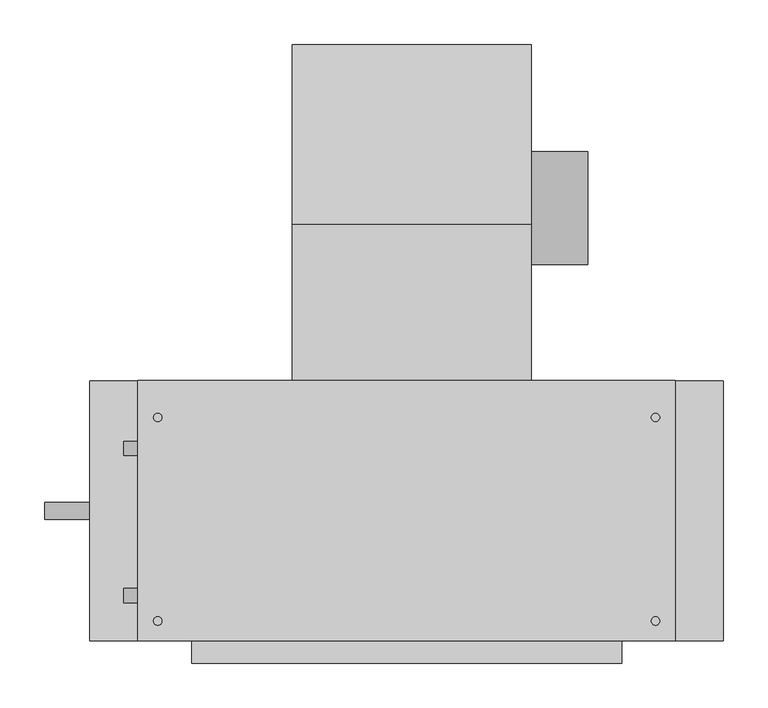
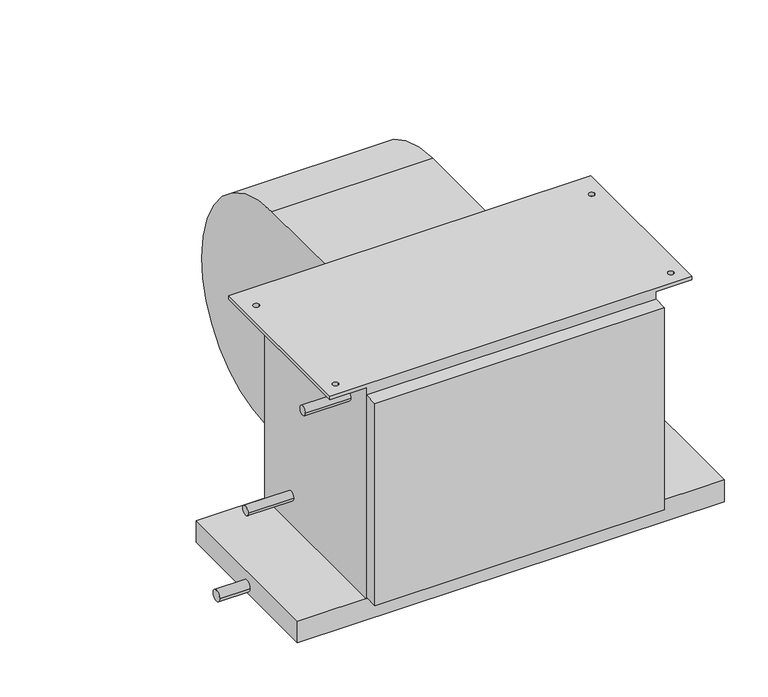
"""IFC4 building model written with IfcOpenShell, lengths in millimetres: proxy geometry, Concealed_High_Capacity_Horizontal_Fan_Coil_Unit_-_42DAA_-_CARRIER_-_2-Pipe_Cool-EHeat_LH_2022 : Size 08 - 277v/60Hz/1Ph - 6 Row 6.0kW."""

from ifc_helpers import new_model, si_unit, point, frame, frame_2d, origin, place, context, project, spatial, polyline, circle_curve, trimmed, segment, composite_curve, outline, extrude, source, transform, mapped, element, save
from ifc_brep_helpers import plane_surface, cylinder_surface, revolved_surface, advanced_brep


def mechanical_equipment_1c2b563a(model_context):
    return source(origin(), model_context, "Body", "SolidModel", [
        extrude(outline(composite_curve([segment(trimmed(circle_curve(frame_2d((102.0007598, -206.8897468)), 63.5), [point((165.5007598, -206.8897468))], [point((38.5007598, -206.8897468))], False, "CARTESIAN"), True, "CONTINUOUS"), segment(trimmed(circle_curve(frame_2d((102.0007598, -206.8897468)), 63.5), [point((38.5007598, -206.8897468))], [point((165.5007598, -206.8897468))], False, "CARTESIAN"), True, "CONTINUOUS")], self_intersect=False)), frame((292.1, 0.0, 0.0), z_axis=(1.0, 0.0, 0.0), x_axis=(0.0, 1.0, 0.0)), (0.0, 0.0, 1.0), 63.5),
        advanced_brep(
        [(23.876, 285.5155957, -222.029602), (23.876, 104.6226, -403.64664), (23.876, -50.9016, -277.10638), (23.876, -92.075, -277.10638), (23.876, -92.075, -19.05), (23.876, 83.0080093, -19.05), (292.1, 285.5155957, -222.029602), (292.1, 83.0080093, -19.05), (292.1, -92.075, -19.05), (292.1, -92.075, -277.10638), (292.1, -50.9016, -277.10638), (292.1, 104.622599, -403.6457839)],
        [
            (0, 1, circle_curve(frame((23.876, 104.44226, -222.57258), z_axis=(-1.0, 0.0, 0.0), x_axis=(0.0, -1.0, 0.0)), 181.0741498)),
            (1, 2, circle_curve(frame((23.876, 104.44226, -245.02364), z_axis=(-1.0, 0.0, 0.0), x_axis=(0.0, -1.0, 0.0)), 158.6222464)),
            (2, 3),
            (3, 4),
            (4, 5),
            (5, 0, circle_curve(frame((23.876, 81.9912, -222.57258), z_axis=(-1.0, 0.0, 0.0), x_axis=(0.0, -1.0, 0.0)), 203.52512)),
            (6, 7, circle_curve(frame((292.1, 81.9912, -222.57258), z_axis=(1.0, 0.0, 0.0), x_axis=(0.0, -1.0, 0.0)), 203.52512)),
            (7, 8),
            (8, 9),
            (9, 10),
            (10, 11, circle_curve(frame((292.1, 104.44226, -245.02364), z_axis=(1.0, 0.0, 0.0), x_axis=(0.0, -1.0, 0.0)), 158.6222464)),
            (11, 6, circle_curve(frame((292.1, 104.44226, -222.57258), z_axis=(1.0, 0.0, 0.0), x_axis=(0.0, -1.0, 0.0)), 181.0741498)),
            (0, 6),
            (11, 1),
            (10, 2),
            (9, 3),
            (8, 4),
            (7, 5),
        ],
        [
            plane_surface(frame((23.876, -76.6318898, -222.57258), z_axis=(-1.0, 0.0, 0.0), x_axis=(0.0, 0.0, 1.0))),
            plane_surface(frame((292.1, -76.6318898, -222.57258), z_axis=(1.0, 0.0, 0.0), x_axis=(0.0, 0.0, -1.0))),
            cylinder_surface(frame((292.1, 104.44226, -222.57258), z_axis=(-1.0, 0.0, 0.0), x_axis=(0.0, -1.0, 0.0)), 181.0741498),
            cylinder_surface(frame((292.1, 104.44226, -245.02364), z_axis=(-1.0, 0.0, 0.0), x_axis=(0.0, -1.0, 0.0)), 158.6222464),
            plane_surface(frame((23.876, -50.9016, -277.10638), z_axis=(0.0, 0.0, -1.0), x_axis=(1.0, 0.0, 0.0))),
            plane_surface(frame((23.876, -92.075, -277.10638), z_axis=(0.0, -1.0, 0.0), x_axis=(1.0, 0.0, 0.0))),
            plane_surface(frame((23.876, -92.075, -19.05), z_axis=(0.0, 0.0, 1.0), x_axis=(1.0, 0.0, 0.0))),
            cylinder_surface(frame((292.1, 81.9912, -222.57258), z_axis=(-1.0, 0.0, 0.0), x_axis=(0.0, -1.0, 0.0)), 203.52512),
        ],
        [
            (0, [[1, 2, 3, 4, 5, 6]]),
            (1, [[7, 8, 9, 10, 11, 12]]),
            (2, [[-1, 13, -12, 14]]),
            (3, [[-2, -14, -11, 15]]),
            (4, [[-3, -15, -10, 16]]),
            (5, [[-4, -16, -9, 17]]),
            (6, [[-5, -17, -8, 18]]),
            (7, [[-6, -18, -7, -13]]),
        ],
    ),
        advanced_brep(
        [(454.025, -92.075, -6.35), (454.025, -384.175, -6.35), (393.7, -384.175, -6.35), (393.7, -92.075, -6.35), (427.0375, -133.35, -6.35), (436.5625, -133.35, -6.35), (427.0375, -361.95, -6.35), (436.5625, -361.95, -6.35), (-149.225, -92.075, -6.35), (-88.9, -92.075, -6.35), (-88.9, -384.175, -6.35), (-149.225, -384.175, -6.35), (-131.7625, -133.35, -6.35), (-122.2375, -133.35, -6.35), (-131.7625, -361.95, -6.35), (-122.2375, -361.95, -6.35), (454.025, -384.175, 0.0), (454.025, -92.075, 0.0), (-149.225, -92.075, 0.0), (-149.225, -384.175, 0.0), (-122.2375, -133.35, 0.0), (-131.7625, -133.35, 0.0), (-122.2375, -361.95, 0.0), (-131.7625, -361.95, 0.0), (436.5625, -133.35, 0.0), (427.0375, -133.35, 0.0), (436.5625, -361.95, 0.0), (427.0375, -361.95, 0.0), (393.7, -92.075, -377.825), (-88.9, -92.075, -377.825), (-88.9, -384.175, -377.825), (393.7, -384.175, -377.825)],
        [
            (0, 1),
            (1, 2),
            (2, 3),
            (3, 0),
            (4, 5, circle_curve(frame((431.8, -133.35, -6.35), z_axis=(0.0, 0.0, 1.0), x_axis=(1.0, 0.0, 0.0)), 4.7625)),
            (5, 4, circle_curve(frame((431.8, -133.35, -6.35), z_axis=(0.0, 0.0, 1.0), x_axis=(1.0, 0.0, 0.0)), 4.7625)),
            (6, 7, circle_curve(frame((431.8, -361.95, -6.35), z_axis=(0.0, 0.0, 1.0), x_axis=(1.0, 0.0, 0.0)), 4.7625)),
            (7, 6, circle_curve(frame((431.8, -361.95, -6.35), z_axis=(0.0, 0.0, 1.0), x_axis=(1.0, 0.0, 0.0)), 4.7625)),
            (8, 9),
            (9, 10),
            (10, 11),
            (11, 8),
            (12, 13, circle_curve(frame((-127.0, -133.35, -6.35), z_axis=(0.0, 0.0, 1.0), x_axis=(1.0, 0.0, 0.0)), 4.7625)),
            (13, 12, circle_curve(frame((-127.0, -133.35, -6.35), z_axis=(0.0, 0.0, 1.0), x_axis=(1.0, 0.0, 0.0)), 4.7625)),
            (14, 15, circle_curve(frame((-127.0, -361.95, -6.35), z_axis=(0.0, 0.0, 1.0), x_axis=(1.0, 0.0, 0.0)), 4.7625)),
            (15, 14, circle_curve(frame((-127.0, -361.95, -6.35), z_axis=(0.0, 0.0, 1.0), x_axis=(1.0, 0.0, 0.0)), 4.7625)),
            (16, 17),
            (17, 18),
            (18, 19),
            (19, 16),
            (20, 21, circle_curve(frame((-127.0, -133.35, 0.0), z_axis=(0.0, 0.0, -1.0), x_axis=(1.0, 0.0, 0.0)), 4.7625)),
            (21, 20, circle_curve(frame((-127.0, -133.35, 0.0), z_axis=(0.0, 0.0, -1.0), x_axis=(1.0, 0.0, 0.0)), 4.7625)),
            (22, 23, circle_curve(frame((-127.0, -361.95, 0.0), z_axis=(0.0, 0.0, -1.0), x_axis=(1.0, 0.0, 0.0)), 4.7625)),
            (23, 22, circle_curve(frame((-127.0, -361.95, 0.0), z_axis=(0.0, 0.0, -1.0), x_axis=(1.0, 0.0, 0.0)), 4.7625)),
            (24, 25, circle_curve(frame((431.8, -133.35, 0.0), z_axis=(0.0, 0.0, -1.0), x_axis=(1.0, 0.0, 0.0)), 4.7625)),
            (25, 24, circle_curve(frame((431.8, -133.35, 0.0), z_axis=(0.0, 0.0, -1.0), x_axis=(1.0, 0.0, 0.0)), 4.7625)),
            (26, 27, circle_curve(frame((431.8, -361.95, 0.0), z_axis=(0.0, 0.0, -1.0), x_axis=(1.0, 0.0, 0.0)), 4.7625)),
            (27, 26, circle_curve(frame((431.8, -361.95, 0.0), z_axis=(0.0, 0.0, -1.0), x_axis=(1.0, 0.0, 0.0)), 4.7625)),
            (3, 28),
            (28, 29),
            (29, 9),
            (8, 18),
            (17, 0),
            (1, 16),
            (19, 11),
            (10, 30),
            (30, 31),
            (31, 2),
            (28, 31),
            (30, 29),
            (20, 13),
            (12, 21),
            (22, 15),
            (14, 23),
            (24, 5),
            (4, 25),
            (26, 7),
            (6, 27),
        ],
        [
            plane_surface(frame((393.7, -92.075, -6.35), z_axis=(0.0, 0.0, -1.0), x_axis=(1.0, 0.0, 0.0))),
            plane_surface(frame((393.7, -92.075, 0.0), z_axis=(0.0, 0.0, 1.0), x_axis=(-1.0, 0.0, 0.0))),
            plane_surface(frame((454.025, -92.075, 0.0), z_axis=(0.0, 1.0, 0.0), x_axis=(0.0, 0.0, -1.0))),
            plane_surface(frame((393.7, -384.175, 0.0), z_axis=(0.0, -1.0, 0.0), x_axis=(0.0, 0.0, -1.0))),
            plane_surface(frame((454.025, -384.175, 0.0), z_axis=(1.0, 0.0, 0.0), x_axis=(0.0, 0.0, -1.0))),
            plane_surface(frame((-149.225, -92.075, 0.0), z_axis=(-1.0, 0.0, 0.0), x_axis=(0.0, 0.0, -1.0))),
            plane_surface(frame((-88.9, -92.075, -377.825), z_axis=(0.0, 0.0, -1.0), x_axis=(1.0, 0.0, 0.0))),
            plane_surface(frame((-88.9, -92.075, 0.0), z_axis=(-1.0, 0.0, 0.0), x_axis=(0.0, 0.0, -1.0))),
            plane_surface(frame((393.7, -384.175, 0.0), z_axis=(1.0, 0.0, 0.0), x_axis=(0.0, 0.0, -1.0))),
            revolved_surface(polyline([(-122.2375, -133.35, 0.0), (-122.2375, -133.35, -6.35)]), (-127.0, -133.35, -6.35), (0.0, 0.0, 1.0)),
            revolved_surface(polyline([(-122.2375, -361.95, 0.0), (-122.2375, -361.95, -6.35)]), (-127.0, -361.95, 0.0), (0.0, 0.0, 1.0)),
            revolved_surface(polyline([(436.5625, -133.35, 0.0), (436.5625, -133.35, -6.35)]), (431.8, -133.35, 0.0), (0.0, 0.0, 1.0)),
            revolved_surface(polyline([(436.5625, -361.95, 0.0), (436.5625, -361.95, -6.35)]), (431.8, -361.95, 0.0), (0.0, 0.0, 1.0)),
        ],
        [
            (0, [[1, 2, 3, 4], [5, 6], [7, 8]]),
            (0, [[9, 10, 11, 12], [13, 14], [15, 16]]),
            (1, [[17, 18, 19, 20], [21, 22], [23, 24], [25, 26], [27, 28]]),
            (2, [[-4, 29, 30, 31, -9, 32, -18, 33]]),
            (3, [[-2, 34, -20, 35, -11, 36, 37, 38]]),
            (4, [[-1, -33, -17, -34]]),
            (5, [[-12, -35, -19, -32]]),
            (6, [[39, -37, 40, -30]]),
            (7, [[-40, -36, -10, -31]]),
            (8, [[-39, -29, -3, -38]]),
            (9, [[41, -13, 42, -21]]),
            (9, [[-41, -22, -42, -14]]),
            (10, [[43, -15, 44, -23]]),
            (10, [[-43, -24, -44, -16]]),
            (11, [[45, -5, 46, -25]]),
            (11, [[-45, -26, -46, -6]]),
            (12, [[47, -7, 48, -27]]),
            (12, [[-47, -28, -48, -8]]),
        ],
    ),
        extrude(outline(composite_curve([segment(trimmed(circle_curve(frame_2d((-238.125, -403.225)), 9.525), [point((-247.65, -403.225))], [point((-228.6, -403.225))], False, "CARTESIAN"), True, "CONTINUOUS"), segment(trimmed(circle_curve(frame_2d((-238.125, -403.225)), 9.525), [point((-228.6, -403.225))], [point((-247.65, -403.225))], False, "CARTESIAN"), True, "CONTINUOUS")], self_intersect=False)), frame((-254.0, 0.0, 0.0), z_axis=(1.0, 0.0, 0.0), x_axis=(0.0, 1.0, 0.0)), (0.0, 0.0, 1.0), 50.8),
        extrude(outline(composite_curve([segment(trimmed(circle_curve(frame_2d((-333.375, -50.8)), 7.9375), [point((-341.3125, -50.8))], [point((-325.4375, -50.8))], False, "CARTESIAN"), True, "CONTINUOUS"), segment(trimmed(circle_curve(frame_2d((-333.375, -50.8)), 7.9375), [point((-325.4375, -50.8))], [point((-341.3125, -50.8))], False, "CARTESIAN"), True, "CONTINUOUS")], self_intersect=False)), frame((-165.1, 0.0, 0.0), z_axis=(1.0, 0.0, 0.0), x_axis=(0.0, 1.0, 0.0)), (0.0, 0.0, 1.0), 76.2),
        extrude(outline(composite_curve([segment(trimmed(circle_curve(frame_2d((-168.275, -327.025)), 7.9375), [point((-176.2125, -327.025))], [point((-160.3375, -327.025))], False, "CARTESIAN"), True, "CONTINUOUS"), segment(trimmed(circle_curve(frame_2d((-168.275, -327.025)), 7.9375), [point((-160.3375, -327.025))], [point((-176.2125, -327.025))], False, "CARTESIAN"), True, "CONTINUOUS")], self_intersect=False)), frame((-165.1, 0.0, 0.0), z_axis=(1.0, 0.0, 0.0), x_axis=(0.0, 1.0, 0.0)), (0.0, 0.0, 1.0), 76.2),
        extrude(outline(polyline([(393.7, -409.575), (-88.9, -409.575), (-88.9, -384.175), (393.7, -384.175), (393.7, -409.575)])), frame((0.0, 0.0, -374.65), z_axis=(0.0, 0.0, 1.0), x_axis=(1.0, 0.0, 0.0)), (0.0, 0.0, 1.0), 355.6),
        extrude(outline(polyline([(508.0, -92.075), (508.0, -384.175), (-203.2, -384.175), (-203.2, -92.075), (508.0, -92.075)])), frame((0.0, 0.0, -415.925), z_axis=(0.0, 0.0, 1.0), x_axis=(1.0, 0.0, 0.0)), (0.0, 0.0, 1.0), 38.1),
    ])


if __name__ == "__main__":
    model = new_model("IFC4")
    model_context = context("Model", 3, world=origin())
    ifc_project = project(units=[si_unit("LENGTHUNIT", "METRE", prefix="MILLI")], contexts=[model_context])
    site = spatial("IfcSite", under=ifc_project)
    building = spatial("IfcBuilding", under=site)
    placement = place(None, origin())
    mechanical_equipment_shape = mechanical_equipment_1c2b563a(model_context)
    element("IfcBuildingElementProxy", 1, Name="Concealed_High_Capacity_Horizontal_Fan_Coil_Unit_-_42DAA_-_CARRIER_-_2-Pipe_Cool-EHeat_LH_2022 : Size 08 - 277v/60Hz/1Ph - 6 Row 6.0kW", ObjectType="Concealed_High_Capacity_Horizontal_Fan_Coil_Unit_-_42DAA_-_CARRIER_-_2-Pipe_Cool-EHeat_LH_2022 : Size 08 - 277v/60Hz/1Ph - 6 Row 6.0kW", at=placement, inside=building, context=model_context, shape_type="MappedRepresentation", body=[
        mapped(mechanical_equipment_shape, transform((0.0, 0.0, 0.0), x_axis=(1.0, 0.0, 0.0), y_axis=(0.0, 1.0, 0.0), z_axis=(0.0, 0.0, 1.0))),
    ])
    save(model, "model.ifc")
